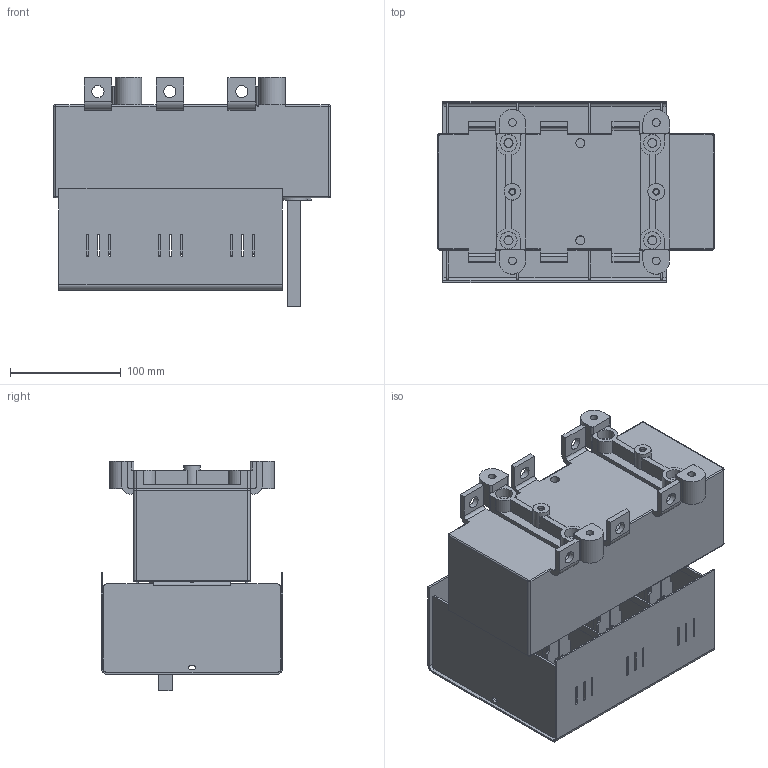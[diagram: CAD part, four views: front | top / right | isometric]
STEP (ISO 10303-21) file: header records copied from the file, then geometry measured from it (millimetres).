
FILE_DESCRIPTION(/* description */ (''),/* implementation_level */ '2;1');
FILE_NAME(/* name */ 'RAB 2 P3 C.stp',/* time_stamp */ '2021-08-19T14:25:48+02:00',/* author */ (''),/* organization */ (''),/* preprocessor_version */ 'ST-DEVELOPER v18.1',/* originating_system */ 'SIEMENS PLM Software NX 1965',/* authorisation */ '');
FILE_SCHEMA (('AUTOMOTIVE_DESIGN { 1 0 10303 214 3 1 1 1 }'));
Length unit declared in the file: millimetre
Products named in the file (1): RAB 2 P3 C_stp
Bounding box: 250 x 164 x 207.3 mm (x, y, z)
Volume: 2488206.2 mm3; surface area: 430543.7 mm2
Topology: 1 solids, 1 shells, 986 faces, 2750 edges, 1798 vertices
Faces by surface type: plane 634, cylinder 344, torus 5, bspline 3
Full cylindrical faces by diameter (mm): 4.8 x2, 6.2 x2, 7 x4, 8.2 x6, 11 x6, 14 x4, 15 x2, 15.5 x4
Entity records: 31709 total; most frequent: CARTESIAN_POINT 5584, ORIENTED_EDGE 5432, DIRECTION 5392, EDGE_CURVE 2716, LINE 1996, VECTOR 1996, VERTEX_POINT 1794, AXIS2_PLACEMENT_3D 1698
